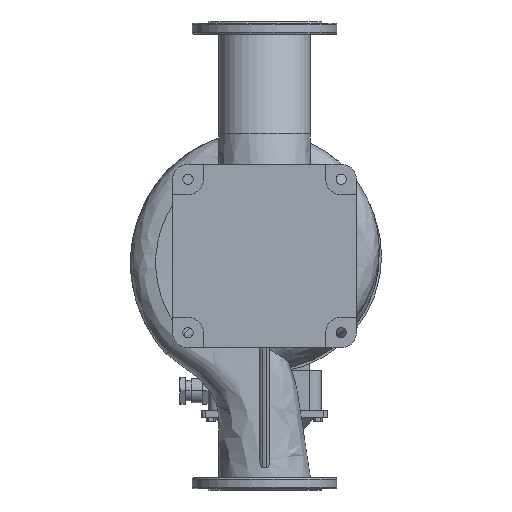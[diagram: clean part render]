
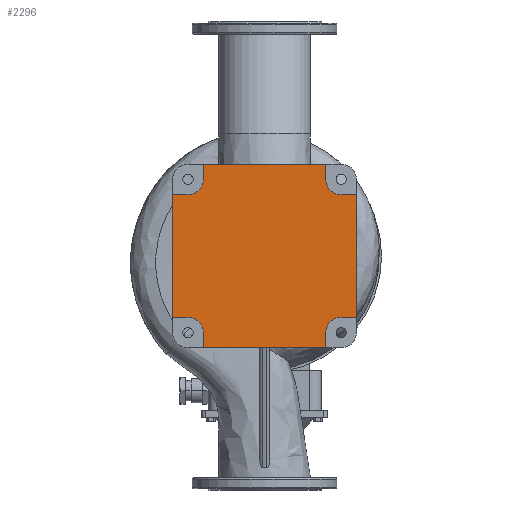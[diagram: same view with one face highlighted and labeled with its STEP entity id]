
A CAD part, front view. The second image highlights one B-rep face of the part: STEP entity #2296.
In plain terms, the highlighted planar face has unit normal (0, -1, 0).
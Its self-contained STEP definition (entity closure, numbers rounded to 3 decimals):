
#1378=PLANE('',#32080);
#2296=ADVANCED_FACE('',(#4750),#1378,.F.);
#4750=FACE_OUTER_BOUND('',#6549,.T.);
#6549=EDGE_LOOP('',(#14431,#14432,#14433,#14434,#14435,#14436,#14437,#14438,
#14439,#14440,#14441,#14442,#14443,#14444,#14445,#14446));
#8750=LINE('',#54002,#10483);
#8758=LINE('',#54020,#10491);
#8766=LINE('',#54040,#10499);
#8774=LINE('',#54057,#10507);
#8780=LINE('',#54073,#10513);
#8781=LINE('',#54075,#10514);
#8784=LINE('',#54083,#10517);
#8785=LINE('',#54085,#10518);
#8788=LINE('',#54093,#10521);
#8789=LINE('',#54095,#10522);
#8792=LINE('',#54103,#10525);
#8793=LINE('',#54105,#10526);
#10483=VECTOR('',#36426,1.);
#10491=VECTOR('',#36440,1.);
#10499=VECTOR('',#36458,1.);
#10507=VECTOR('',#36476,1.);
#10513=VECTOR('',#36492,1.);
#10514=VECTOR('',#36495,1.);
#10517=VECTOR('',#36504,1.);
#10518=VECTOR('',#36507,1.);
#10521=VECTOR('',#36516,1.);
#10522=VECTOR('',#36519,1.);
#10525=VECTOR('',#36528,1.);
#10526=VECTOR('',#36531,1.);
#14431=ORIENTED_EDGE('',*,*,#25944,.T.);
#14432=ORIENTED_EDGE('',*,*,#25962,.T.);
#14433=ORIENTED_EDGE('',*,*,#25909,.T.);
#14434=ORIENTED_EDGE('',*,*,#25961,.T.);
#14435=ORIENTED_EDGE('',*,*,#25959,.T.);
#14436=ORIENTED_EDGE('',*,*,#25957,.T.);
#14437=ORIENTED_EDGE('',*,*,#25918,.T.);
#14438=ORIENTED_EDGE('',*,*,#25956,.T.);
#14439=ORIENTED_EDGE('',*,*,#25954,.T.);
#14440=ORIENTED_EDGE('',*,*,#25952,.T.);
#14441=ORIENTED_EDGE('',*,*,#25938,.T.);
#14442=ORIENTED_EDGE('',*,*,#25951,.T.);
#14443=ORIENTED_EDGE('',*,*,#25949,.T.);
#14444=ORIENTED_EDGE('',*,*,#25947,.T.);
#14445=ORIENTED_EDGE('',*,*,#25928,.T.);
#14446=ORIENTED_EDGE('',*,*,#25946,.T.);
#22788=VERTEX_POINT('',#54001);
#22789=VERTEX_POINT('',#54003);
#22795=VERTEX_POINT('',#54019);
#22796=VERTEX_POINT('',#54021);
#22801=VERTEX_POINT('',#54038);
#22803=VERTEX_POINT('',#54041);
#22806=VERTEX_POINT('',#54056);
#22807=VERTEX_POINT('',#54058);
#22810=VERTEX_POINT('',#54068);
#22811=VERTEX_POINT('',#54070);
#22812=VERTEX_POINT('',#54076);
#22813=VERTEX_POINT('',#54080);
#22814=VERTEX_POINT('',#54086);
#22815=VERTEX_POINT('',#54090);
#22816=VERTEX_POINT('',#54096);
#22817=VERTEX_POINT('',#54100);
#25909=EDGE_CURVE('',#22789,#22788,#8750,.T.);
#25918=EDGE_CURVE('',#22796,#22795,#8758,.T.);
#25928=EDGE_CURVE('',#22803,#22801,#8766,.T.);
#25938=EDGE_CURVE('',#22807,#22806,#8774,.T.);
#25944=EDGE_CURVE('',#22811,#22810,#30125,.T.);
#25946=EDGE_CURVE('',#22801,#22811,#8780,.T.);
#25947=EDGE_CURVE('',#22812,#22803,#8781,.T.);
#25949=EDGE_CURVE('',#22813,#22812,#30126,.T.);
#25951=EDGE_CURVE('',#22806,#22813,#8784,.T.);
#25952=EDGE_CURVE('',#22814,#22807,#8785,.T.);
#25954=EDGE_CURVE('',#22815,#22814,#30127,.T.);
#25956=EDGE_CURVE('',#22795,#22815,#8788,.T.);
#25957=EDGE_CURVE('',#22816,#22796,#8789,.T.);
#25959=EDGE_CURVE('',#22817,#22816,#30128,.T.);
#25961=EDGE_CURVE('',#22788,#22817,#8792,.T.);
#25962=EDGE_CURVE('',#22810,#22789,#8793,.T.);
#30125=CIRCLE('',#32064,36.);
#30126=CIRCLE('',#32068,36.);
#30127=CIRCLE('',#32072,36.);
#30128=CIRCLE('',#32076,36.);
#32064=AXIS2_PLACEMENT_3D('',#54069,#36487,#36488);
#32068=AXIS2_PLACEMENT_3D('',#54079,#36499,#36500);
#32072=AXIS2_PLACEMENT_3D('',#54089,#36511,#36512);
#32076=AXIS2_PLACEMENT_3D('',#54099,#36523,#36524);
#32080=AXIS2_PLACEMENT_3D('',#54107,#36534,#36535);
#36426=DIRECTION('',(1.,0.,0.));
#36440=DIRECTION('',(0.,0.,1.));
#36458=DIRECTION('',(0.,0.,-1.));
#36476=DIRECTION('',(-1.,0.,0.));
#36487=DIRECTION('',(0.,1.,0.));
#36488=DIRECTION('',(0.,0.,1.));
#36492=DIRECTION('',(1.,0.,0.));
#36495=DIRECTION('',(-1.,0.,0.));
#36499=DIRECTION('',(0.,1.,0.));
#36500=DIRECTION('',(0.,0.,1.));
#36504=DIRECTION('',(0.,0.,-1.));
#36507=DIRECTION('',(0.,0.,1.));
#36511=DIRECTION('',(0.,1.,0.));
#36512=DIRECTION('',(0.,0.,1.));
#36516=DIRECTION('',(-1.,0.,0.));
#36519=DIRECTION('',(1.,0.,0.));
#36523=DIRECTION('',(0.,1.,0.));
#36524=DIRECTION('',(0.,0.,1.));
#36528=DIRECTION('',(0.,0.,1.));
#36531=DIRECTION('',(0.,0.,-1.));
#36534=DIRECTION('',(0.,1.,0.));
#36535=DIRECTION('',(0.,0.,-1.));
#54001=CARTESIAN_POINT('',(144.,-265.,-216.));
#54002=CARTESIAN_POINT('',(144.,-265.,-216.));
#54003=CARTESIAN_POINT('',(-144.,-265.,-216.));
#54019=CARTESIAN_POINT('',(216.,-265.,144.));
#54020=CARTESIAN_POINT('',(216.,-265.,144.));
#54021=CARTESIAN_POINT('',(216.,-265.,-144.));
#54038=CARTESIAN_POINT('',(-216.,-265.,-144.));
#54040=CARTESIAN_POINT('',(-216.,-265.,-144.));
#54041=CARTESIAN_POINT('',(-216.,-265.,144.));
#54056=CARTESIAN_POINT('',(-144.,-265.,216.));
#54057=CARTESIAN_POINT('',(-144.,-265.,216.));
#54058=CARTESIAN_POINT('',(144.,-265.,216.));
#54068=CARTESIAN_POINT('',(-144.,-265.,-180.));
#54069=CARTESIAN_POINT('',(-180.,-265.,-180.));
#54070=CARTESIAN_POINT('',(-180.,-265.,-144.));
#54073=CARTESIAN_POINT('',(-180.,-265.,-144.));
#54075=CARTESIAN_POINT('',(-180.,-265.,144.));
#54076=CARTESIAN_POINT('',(-180.,-265.,144.));
#54079=CARTESIAN_POINT('',(-180.,-265.,180.));
#54080=CARTESIAN_POINT('',(-144.,-265.,180.));
#54083=CARTESIAN_POINT('',(-144.,-265.,180.));
#54085=CARTESIAN_POINT('',(144.,-265.,180.));
#54086=CARTESIAN_POINT('',(144.,-265.,180.));
#54089=CARTESIAN_POINT('',(180.,-265.,180.));
#54090=CARTESIAN_POINT('',(180.,-265.,144.));
#54093=CARTESIAN_POINT('',(180.,-265.,144.));
#54095=CARTESIAN_POINT('',(180.,-265.,-144.));
#54096=CARTESIAN_POINT('',(180.,-265.,-144.));
#54099=CARTESIAN_POINT('',(180.,-265.,-180.));
#54100=CARTESIAN_POINT('',(144.,-265.,-180.));
#54103=CARTESIAN_POINT('',(144.,-265.,-180.));
#54105=CARTESIAN_POINT('',(-144.,-265.,-180.));
#54107=CARTESIAN_POINT('',(-180.,-265.,-180.));
